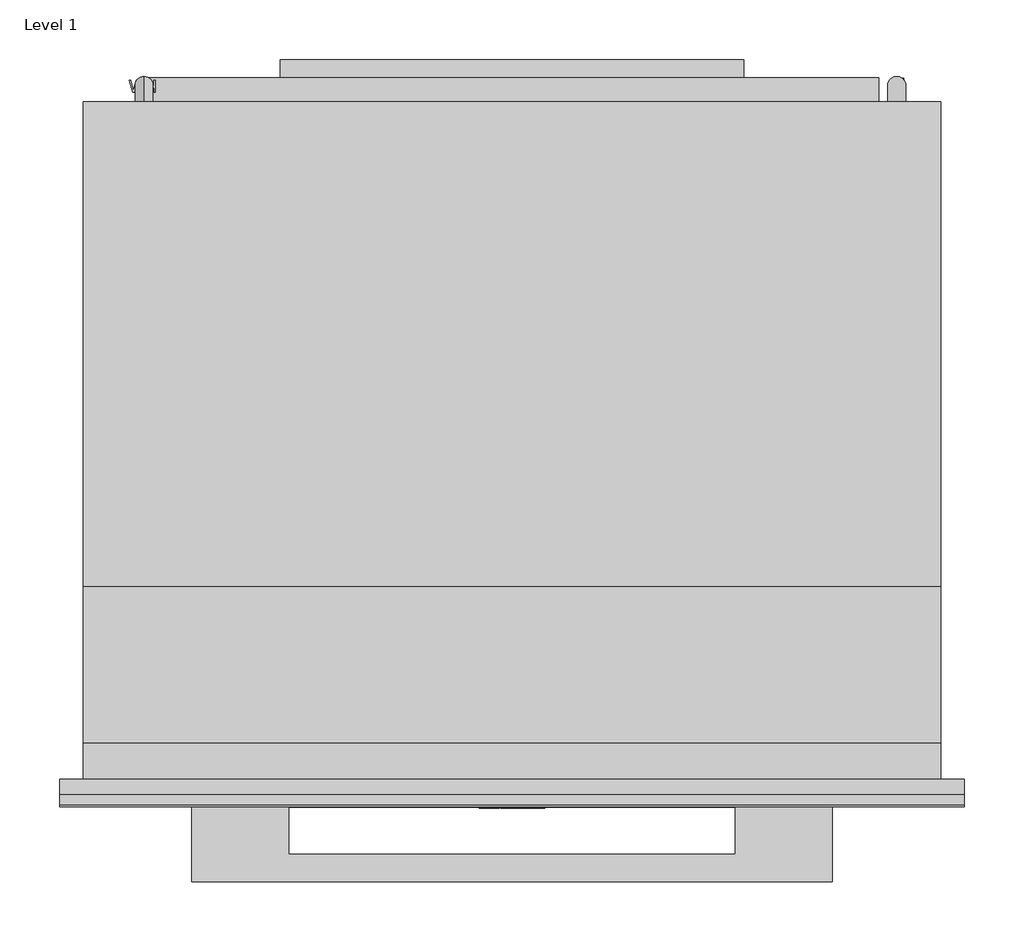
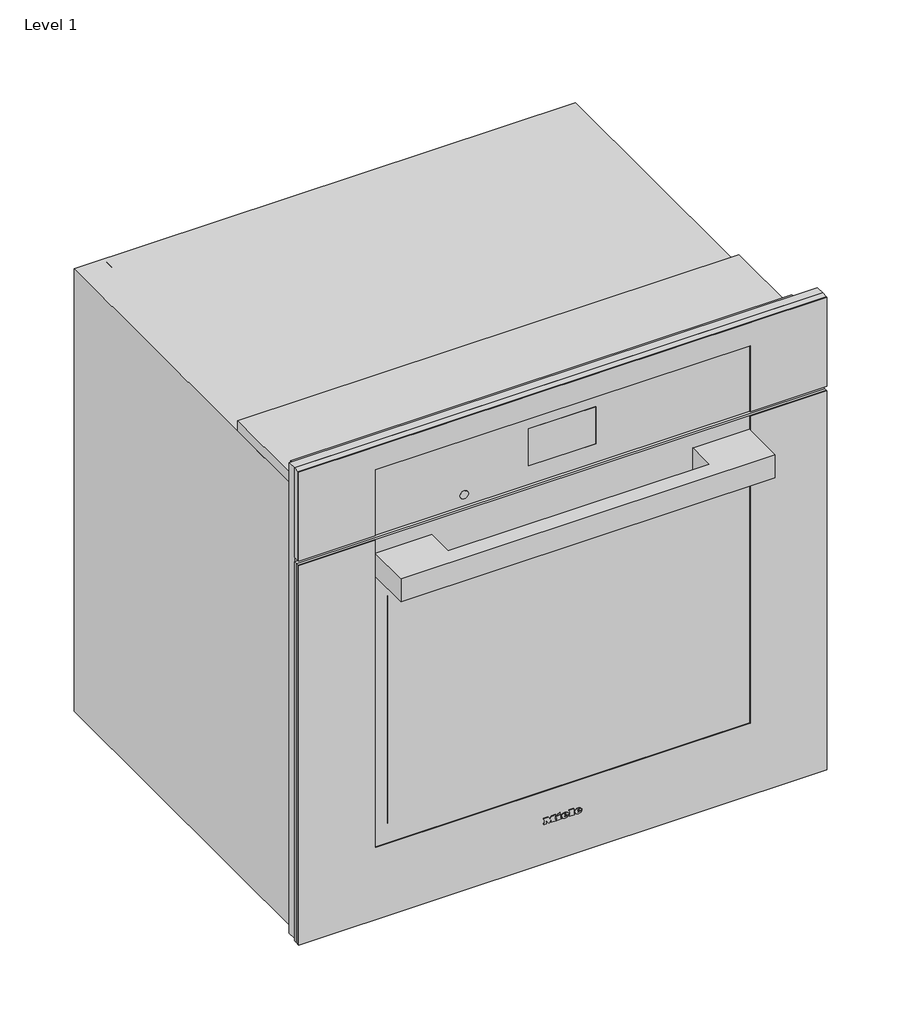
# One storey: 1 proxy.
"""IFC4 building model written with IfcOpenShell, lengths in millimetres."""

from ifc_helpers import new_model, si_unit, origin, place, context, project, spatial, transform, mapped, element, save
from components import specialty_equipment_c50387fd

model = new_model("IFC4")

# Units and contexts
model_context = context("Model", 3, world=origin())
ifc_project = project(units=[si_unit("LENGTHUNIT", "METRE", prefix="MILLI")], contexts=[model_context])

# Site, building, storey
site = spatial("IfcSite", under=ifc_project)
building = spatial("IfcBuilding", under=site)
storey = spatial("IfcBuildingStorey", under=building, Name="Level 1", Elevation=0.0)

# Proxy
placement = place(None, origin())
specialty_equipment_shape = specialty_equipment_c50387fd(model_context)
element("IfcBuildingElementProxy", 1, Name="11805540_USA_H7580BP_EDST-CLST : 22758045_USA_11805540_H7580BP_EDST-CLST", ObjectType="11805540_USA_H7580BP_EDST-CLST : 22758045_USA_11805540_H7580BP_EDST-CLST", at=placement, inside=storey, context=model_context, shape_type="MappedRepresentation", body=[
    mapped(specialty_equipment_shape, transform((0.0, 0.0, 0.0), x_axis=(1.0, 0.0, 0.0), y_axis=(0.0, 1.0, 0.0), z_axis=(0.0, 0.0, 1.0))),
])

save(model, "model.ifc")
